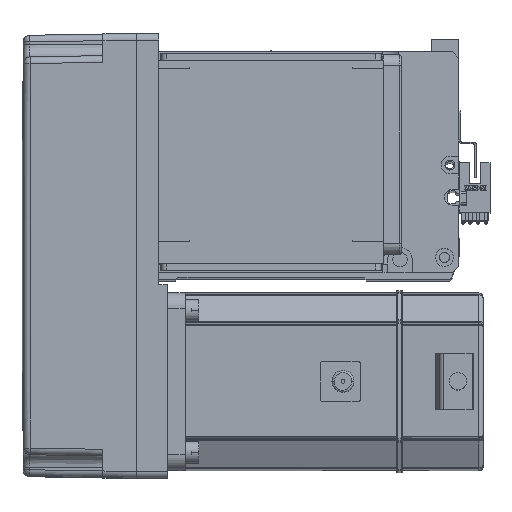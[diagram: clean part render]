
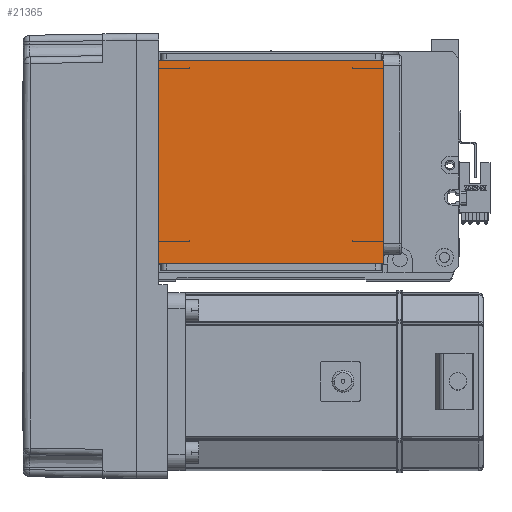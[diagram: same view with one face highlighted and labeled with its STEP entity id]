
A CAD part, top view. The second image highlights one B-rep face of the part: STEP entity #21365.
In plain terms, the highlighted planar face has unit normal (0, 0, 1).
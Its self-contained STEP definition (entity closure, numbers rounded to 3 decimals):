
#1039 = LINE ( 'NONE', #10183, #35304 ) ;
#1388 = AXIS2_PLACEMENT_3D ( 'NONE', #7348, #24609, #50745 ) ;
#1933 = VECTOR ( 'NONE', #26203, 1000. ) ;
#5178 = CARTESIAN_POINT ( 'NONE',  ( -70.004, 20., 115. ) ) ;
#7348 = CARTESIAN_POINT ( 'NONE',  ( 0., 0., 115. ) ) ;
#9618 = ORIENTED_EDGE ( 'NONE', *, *, #47933, .T. ) ;
#10183 = CARTESIAN_POINT ( 'NONE',  ( -70.004, 111.5, 115. ) ) ;
#10544 = ORIENTED_EDGE ( 'NONE', *, *, #20033, .F. ) ;
#14550 = DIRECTION ( 'NONE',  ( 1., 0., 0. ) ) ;
#14970 = CARTESIAN_POINT ( 'NONE',  ( 50.5, 111.5, 115. ) ) ;
#15229 = VERTEX_POINT ( 'NONE', #18316 ) ;
#17882 = VERTEX_POINT ( 'NONE', #44082 ) ;
#18316 = CARTESIAN_POINT ( 'NONE',  ( -50.5, 111.5, 115. ) ) ;
#20033 = EDGE_CURVE ( 'NONE', #31199, #17882, #36215, .T. ) ;
#21365 = ADVANCED_FACE ( 'NONE', ( #55501 ), #46062, .T. ) ;
#23704 = EDGE_LOOP ( 'NONE', ( #25330, #43631, #10544, #9618 ) ) ;
#24609 = DIRECTION ( 'NONE',  ( 0., 0., 1. ) ) ;
#25330 = ORIENTED_EDGE ( 'NONE', *, *, #45387, .F. ) ;
#26203 = DIRECTION ( 'NONE',  ( -1., 0., 0. ) ) ;
#26479 = CARTESIAN_POINT ( 'NONE',  ( 50.5, 20., 115. ) ) ;
#29587 = DIRECTION ( 'NONE',  ( 0., 1., 0. ) ) ;
#31199 = VERTEX_POINT ( 'NONE', #26479 ) ;
#31713 = CARTESIAN_POINT ( 'NONE',  ( -50.5, 122., 115. ) ) ;
#33446 = LINE ( 'NONE', #31713, #46228 ) ;
#35304 = VECTOR ( 'NONE', #14550, 1000. ) ;
#36215 = LINE ( 'NONE', #5178, #1933 ) ;
#42655 = VERTEX_POINT ( 'NONE', #14970 ) ;
#43631 = ORIENTED_EDGE ( 'NONE', *, *, #55440, .T. ) ;
#44082 = CARTESIAN_POINT ( 'NONE',  ( -50.5, 20., 115. ) ) ;
#44264 = DIRECTION ( 'NONE',  ( 0., -1., 0. ) ) ;
#45387 = EDGE_CURVE ( 'NONE', #15229, #42655, #1039, .T. ) ;
#46062 = PLANE ( 'NONE',  #1388 ) ;
#46228 = VECTOR ( 'NONE', #44264, 1000. ) ;
#47933 = EDGE_CURVE ( 'NONE', #31199, #42655, #50500, .T. ) ;
#50500 = LINE ( 'NONE', #55328, #51135 ) ;
#50745 = DIRECTION ( 'NONE',  ( 1., 0., 0. ) ) ;
#51135 = VECTOR ( 'NONE', #29587, 1000. ) ;
#55328 = CARTESIAN_POINT ( 'NONE',  ( 50.5, 122., 115. ) ) ;
#55440 = EDGE_CURVE ( 'NONE', #15229, #17882, #33446, .T. ) ;
#55501 = FACE_OUTER_BOUND ( 'NONE', #23704, .T. ) ;
